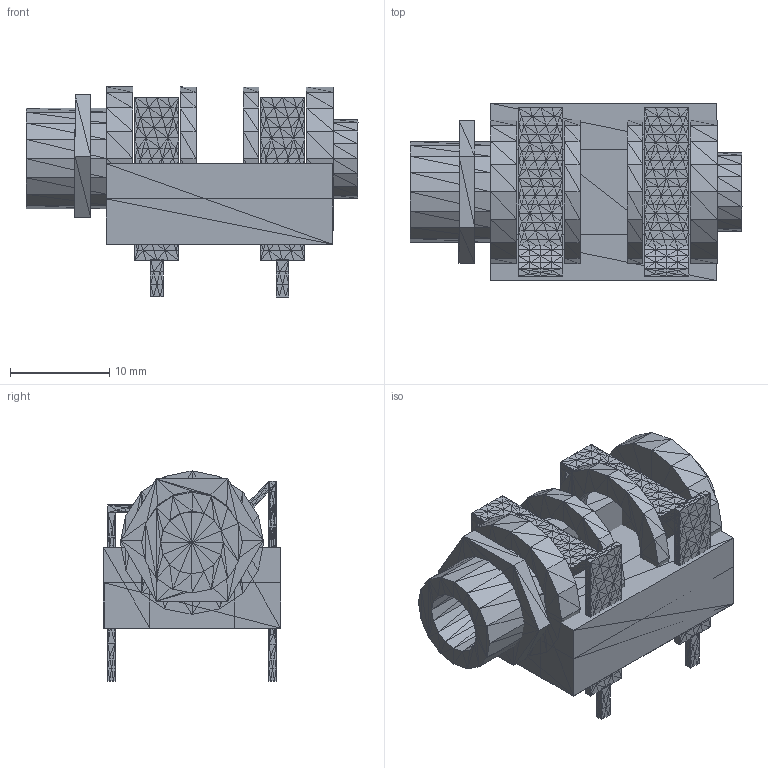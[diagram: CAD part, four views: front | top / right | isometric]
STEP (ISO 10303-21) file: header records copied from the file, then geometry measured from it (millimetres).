
FILE_DESCRIPTION(('HOOPS Exchange Step'),'2;1');
FILE_NAME('***.stp');
FILE_SCHEMA( ('AP242_MANAGED_MODEL_BASED_3D_ENGINEERING_MIM_LF {1 0 10303 442 1 1 4 }') );
Length unit declared in the file: inch
Products named in the file (11): PHJKSW_2; PHJKSW_3; PHJKSW_4; PHJKSW_5; PHJKSW_6; PHJKSW_7; PHJKSW_8; PHJKSW_9; PHJKSW_10; PHJKSW_11; PHJKSW
Assembly tree (10 placements, depth 2):
  PHJKSW
    PHJKSW_2
    PHJKSW_3
    PHJKSW_4
    PHJKSW_5
    PHJKSW_6
    PHJKSW_7
    PHJKSW_8
    PHJKSW_9
    PHJKSW_10
    PHJKSW_11
Bounding box: 33.53 x 17.91 x 21.21 mm (x, y, z)
Volume: 3437 mm3; surface area: 5960 mm2
Topology: 9 solids, 22 shells, 4392 faces, 6604 edges, 2240 vertices
Faces by surface type: plane 4392
Entity records: 86286 total; most frequent: DIRECTION 15432, CARTESIAN_POINT 13258, ORIENTED_EDGE 13176, VECTOR 6604, LINE 6604, EDGE_CURVE 6604, AXIS2_PLACEMENT_3D 4414, PLANE 4392
